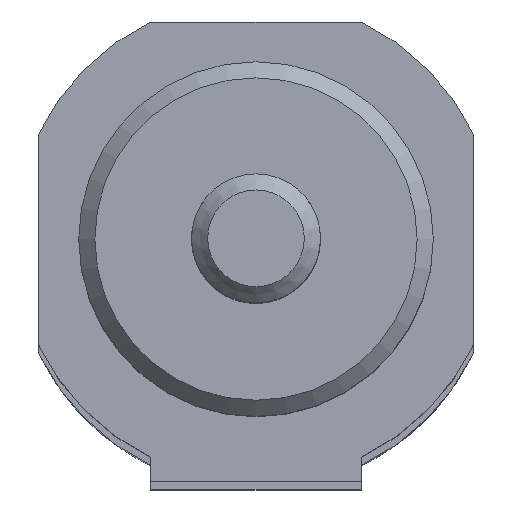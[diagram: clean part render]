
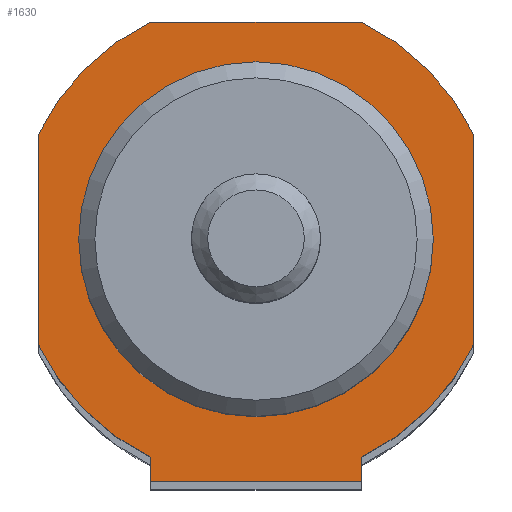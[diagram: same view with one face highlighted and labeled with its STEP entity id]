
A CAD part, top view. The second image highlights one B-rep face of the part: STEP entity #1630.
In plain terms, the highlighted planar face has unit normal (0, 0, 1).
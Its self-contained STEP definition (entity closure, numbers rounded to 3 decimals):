
#73=CARTESIAN_POINT('',(6.538,-15.,331.));
#74=VERTEX_POINT('',#73);
#75=CARTESIAN_POINT('',(-6.538,-15.,331.));
#76=VERTEX_POINT('',#75);
#77=CARTESIAN_POINT('',(6.538,-15.,331.));
#78=DIRECTION('',(-1.0,0.0,0.0));
#79=VECTOR('',#78,13.077);
#80=LINE('',#77,#79);
#81=EDGE_CURVE('',#74,#76,#80,.T.);
#126=CARTESIAN_POINT('',(-6.538,-13.5,331.));
#127=VERTEX_POINT('',#126);
#141=CARTESIAN_POINT('',(-6.538,-13.5,331.));
#142=DIRECTION('',(0.0,-1.0,0.0));
#143=VECTOR('',#142,1.5);
#144=LINE('',#141,#143);
#145=EDGE_CURVE('',#127,#76,#144,.T.);
#157=CARTESIAN_POINT('',(6.538,-13.5,331.));
#158=VERTEX_POINT('',#157);
#165=CARTESIAN_POINT('',(6.538,-13.5,331.));
#166=DIRECTION('',(0.0,-1.0,0.0));
#167=VECTOR('',#166,1.5);
#168=LINE('',#165,#167);
#169=EDGE_CURVE('',#158,#74,#168,.T.);
#1358=CARTESIAN_POINT('',(11.0,0.,331.));
#1359=VERTEX_POINT('',#1358);
#1360=CARTESIAN_POINT('',(0.,0.,331.));
#1361=DIRECTION('',(0.0,0.0,-1.0));
#1362=DIRECTION('',(-1.0,0.0,0.0));
#1363=AXIS2_PLACEMENT_3D('',#1360,#1361,#1362);
#1364=CIRCLE('',#1363,11.0);
#1365=EDGE_CURVE('',#1359,#1359,#1364,.T.);
#1450=CARTESIAN_POINT('',(-6.538,13.5,331.));
#1451=VERTEX_POINT('',#1450);
#1452=CARTESIAN_POINT('',(6.538,13.5,331.));
#1453=VERTEX_POINT('',#1452);
#1454=CARTESIAN_POINT('',(-6.538,13.5,331.));
#1455=DIRECTION('',(1.0,0.0,0.0));
#1456=VECTOR('',#1455,13.077);
#1457=LINE('',#1454,#1456);
#1458=EDGE_CURVE('',#1451,#1453,#1457,.T.);
#1481=CARTESIAN_POINT('',(13.5,6.538,331.));
#1482=VERTEX_POINT('',#1481);
#1483=CARTESIAN_POINT('',(0.,0.,331.));
#1484=DIRECTION('',(0.,0.,-1.0));
#1485=DIRECTION('',(0.9,0.436,0.));
#1486=AXIS2_PLACEMENT_3D('',#1483,#1484,#1485);
#1487=CIRCLE('',#1486,15.);
#1488=EDGE_CURVE('',#1453,#1482,#1487,.T.);
#1506=CARTESIAN_POINT('',(13.5,-6.538,331.));
#1507=VERTEX_POINT('',#1506);
#1508=CARTESIAN_POINT('',(13.5,6.538,331.));
#1509=DIRECTION('',(0.0,-1.0,0.0));
#1510=VECTOR('',#1509,13.077);
#1511=LINE('',#1508,#1510);
#1512=EDGE_CURVE('',#1482,#1507,#1511,.T.);
#1530=CARTESIAN_POINT('',(0.,0.,331.));
#1531=DIRECTION('',(0.,0.,-1.0));
#1532=DIRECTION('',(0.436,-0.9,0.));
#1533=AXIS2_PLACEMENT_3D('',#1530,#1531,#1532);
#1534=CIRCLE('',#1533,15.);
#1535=EDGE_CURVE('',#1507,#158,#1534,.T.);
#1548=CARTESIAN_POINT('',(-13.5,-6.538,331.));
#1549=VERTEX_POINT('',#1548);
#1550=CARTESIAN_POINT('',(0.,0.,331.));
#1551=DIRECTION('',(0.,0.,-1.0));
#1552=DIRECTION('',(-0.9,-0.436,0.));
#1553=AXIS2_PLACEMENT_3D('',#1550,#1551,#1552);
#1554=CIRCLE('',#1553,15.);
#1555=EDGE_CURVE('',#127,#1549,#1554,.T.);
#1573=CARTESIAN_POINT('',(-13.5,6.538,331.));
#1574=VERTEX_POINT('',#1573);
#1575=CARTESIAN_POINT('',(-13.5,-6.538,331.));
#1576=DIRECTION('',(0.0,1.0,0.0));
#1577=VECTOR('',#1576,13.077);
#1578=LINE('',#1575,#1577);
#1579=EDGE_CURVE('',#1549,#1574,#1578,.T.);
#1597=CARTESIAN_POINT('',(0.,0.,331.));
#1598=DIRECTION('',(0.,0.,-1.0));
#1599=DIRECTION('',(-0.436,0.9,0.));
#1600=AXIS2_PLACEMENT_3D('',#1597,#1598,#1599);
#1601=CIRCLE('',#1600,15.);
#1602=EDGE_CURVE('',#1574,#1451,#1601,.T.);
#1610=CARTESIAN_POINT('',(0.,0.0,331.));
#1611=DIRECTION('',(0.0,0.0,1.0));
#1612=DIRECTION('',(1.0,0.0,0.0));
#1613=AXIS2_PLACEMENT_3D('',#1610,#1611,#1612);
#1614=PLANE('',#1613);
#1615=ORIENTED_EDGE('',*,*,#1458,.F.);
#1616=ORIENTED_EDGE('',*,*,#1602,.F.);
#1617=ORIENTED_EDGE('',*,*,#1579,.F.);
#1618=ORIENTED_EDGE('',*,*,#1555,.F.);
#1619=ORIENTED_EDGE('',*,*,#145,.T.);
#1620=ORIENTED_EDGE('',*,*,#81,.F.);
#1621=ORIENTED_EDGE('',*,*,#169,.F.);
#1622=ORIENTED_EDGE('',*,*,#1535,.F.);
#1623=ORIENTED_EDGE('',*,*,#1512,.F.);
#1624=ORIENTED_EDGE('',*,*,#1488,.F.);
#1625=EDGE_LOOP('',(#1615,#1616,#1617,#1618,#1619,#1620,#1621,#1622,#1623,#1624));
#1626=FACE_OUTER_BOUND('',#1625,.T.);
#1627=ORIENTED_EDGE('',*,*,#1365,.T.);
#1628=EDGE_LOOP('',(#1627));
#1629=FACE_BOUND('',#1628,.T.);
#1630=ADVANCED_FACE('',(#1626,#1629),#1614,.T.);
